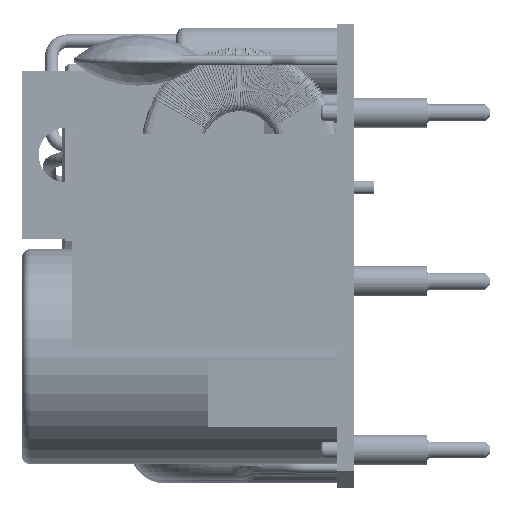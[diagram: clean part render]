
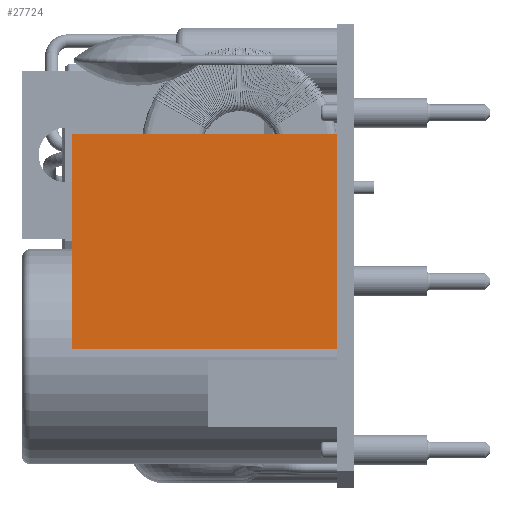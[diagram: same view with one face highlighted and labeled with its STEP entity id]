
A CAD part, left-side view. The second image highlights one B-rep face of the part: STEP entity #27724.
In plain terms, the highlighted planar face has unit normal (-1, 0, 0).
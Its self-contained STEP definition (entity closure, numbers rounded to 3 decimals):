
#5190 = ORIENTED_EDGE ( 'NONE', *, *, #30376, .T. ) ;
#5551 = DIRECTION ( 'NONE',  ( 0., 0., -1. ) ) ;
#9476 = LINE ( 'NONE', #27605, #56764 ) ;
#13723 = ORIENTED_EDGE ( 'NONE', *, *, #20777, .F. ) ;
#20456 = EDGE_LOOP ( 'NONE', ( #21241, #13723, #60222, #5190 ) ) ;
#20777 = EDGE_CURVE ( 'NONE', #78909, #73452, #120111, .T. ) ;
#21012 = CARTESIAN_POINT ( 'NONE',  ( 51.465, 68.8, 16. ) ) ;
#21241 = ORIENTED_EDGE ( 'NONE', *, *, #107628, .T. ) ;
#24034 = FACE_OUTER_BOUND ( 'NONE', #20456, .T. ) ;
#26452 = DIRECTION ( 'NONE',  ( 0., 0., -1. ) ) ;
#26556 = CARTESIAN_POINT ( 'NONE',  ( 51.465, 68.8, 0. ) ) ;
#27605 = CARTESIAN_POINT ( 'NONE',  ( 51.465, 68.8, 16. ) ) ;
#27724 = ADVANCED_FACE ( 'NONE', ( #24034 ), #35852, .F. ) ;
#30376 = EDGE_CURVE ( 'NONE', #88502, #77994, #115000, .T. ) ;
#34915 = CARTESIAN_POINT ( 'NONE',  ( 51.465, 55.8, 16. ) ) ;
#35852 = PLANE ( 'NONE',  #109290 ) ;
#42510 = CARTESIAN_POINT ( 'NONE',  ( 51.465, 55.8, 0. ) ) ;
#43716 = EDGE_CURVE ( 'NONE', #88502, #78909, #9476, .T. ) ;
#45666 = CARTESIAN_POINT ( 'NONE',  ( 51.465, 68.8, 16. ) ) ;
#54628 = DIRECTION ( 'NONE',  ( 0., -1., 0. ) ) ;
#56764 = VECTOR ( 'NONE', #114242, 1000. ) ;
#59471 = VECTOR ( 'NONE', #5551, 1000. ) ;
#60066 = VECTOR ( 'NONE', #54628, 1000. ) ;
#60222 = ORIENTED_EDGE ( 'NONE', *, *, #43716, .F. ) ;
#73452 = VERTEX_POINT ( 'NONE', #42510 ) ;
#75317 = LINE ( 'NONE', #26556, #60066 ) ;
#75350 = DIRECTION ( 'NONE',  ( 1., 0., 0. ) ) ;
#77994 = VERTEX_POINT ( 'NONE', #79519 ) ;
#78909 = VERTEX_POINT ( 'NONE', #116511 ) ;
#79519 = CARTESIAN_POINT ( 'NONE',  ( 51.465, 68.8, 0. ) ) ;
#88502 = VERTEX_POINT ( 'NONE', #92892 ) ;
#89200 = VECTOR ( 'NONE', #98720, 1000. ) ;
#92892 = CARTESIAN_POINT ( 'NONE',  ( 51.465, 68.8, 16. ) ) ;
#98720 = DIRECTION ( 'NONE',  ( 0., 0., -1. ) ) ;
#107628 = EDGE_CURVE ( 'NONE', #77994, #73452, #75317, .T. ) ;
#109290 = AXIS2_PLACEMENT_3D ( 'NONE', #45666, #75350, #26452 ) ;
#114242 = DIRECTION ( 'NONE',  ( 0., -1., 0. ) ) ;
#115000 = LINE ( 'NONE', #21012, #89200 ) ;
#116511 = CARTESIAN_POINT ( 'NONE',  ( 51.465, 55.8, 16. ) ) ;
#120111 = LINE ( 'NONE', #34915, #59471 ) ;
